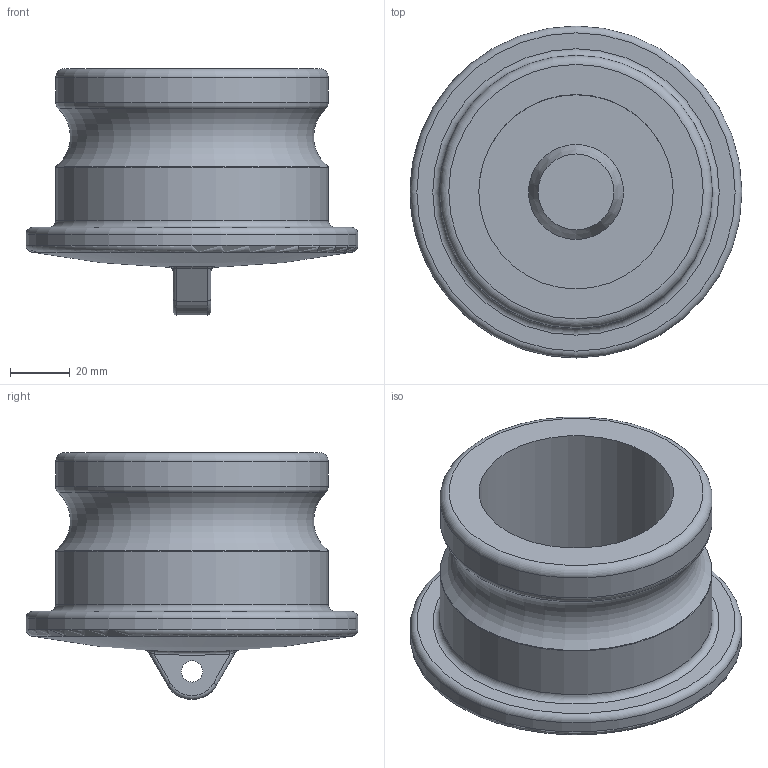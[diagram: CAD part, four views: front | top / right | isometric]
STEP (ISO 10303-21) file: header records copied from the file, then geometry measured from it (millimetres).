
FILE_DESCRIPTION(/* description */ ('Alibre Inc.'),/* implementation_level */ '2;1');
FILE_NAME(/* name */ 'export0',/* time_stamp */ '2016-03-15T18:04:43-04:00',/* author */ (''),/* organization */ (''),/* preprocessor_version */ 'ST-DEVELOPER v14',/* originating_system */ 'Alibre',/* authorisation */ '');
FILE_SCHEMA (('CONFIG_CONTROL_DESIGN'));
Length unit declared in the file: centimetre
Products named in the file (1): ID_1
Bounding box: 111 x 111 x 82.52 mm (x, y, z)
Volume: 261532.9 mm3; surface area: 48886.7 mm2
Topology: 1 solids, 1 shells, 37 faces, 75 edges, 43 vertices
Faces by surface type: torus 12, cylinder 10, plane 8, bspline 4, cone 2, sphere 1
Full cylindrical faces by diameter (mm): 7.112 x1, 65.024 x1, 91.186 x2, 110.998 x1
Entity records: 1245 total; most frequent: CARTESIAN_POINT 459, DIRECTION 140, ORIENTED_EDGE 120, AXIS2_PLACEMENT_3D 75, EDGE_CURVE 60, EDGE_LOOP 56, FACE_BOUND 56, VERTEX_POINT 42
